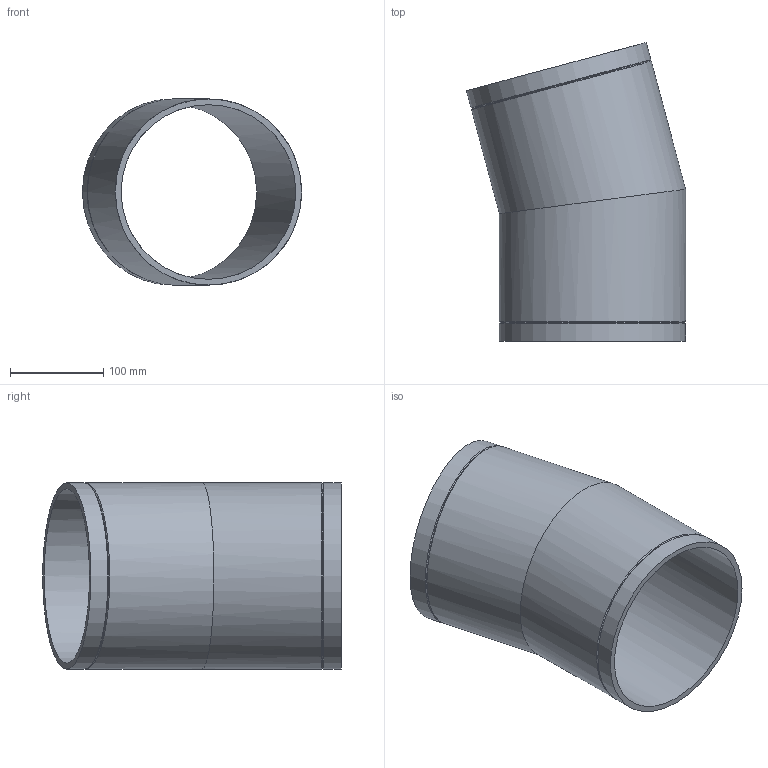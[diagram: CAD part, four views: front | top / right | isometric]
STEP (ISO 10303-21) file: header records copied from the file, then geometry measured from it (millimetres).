
FILE_DESCRIPTION(/* description */ (''),/* implementation_level */ '2;1');
FILE_NAME(/* name */ 'Z:\Geberit\Export\NewStep\370015.stp',/* time_stamp */ '2014-04-02T08:03:30+02:00',/* author */ ('nelson'),/* organization */ (''),/* preprocessor_version */ 'ST-DEVELOPER v15.2',/* originating_system */ 'Autodesk Inventor 2014',/* authorisation */ '');
FILE_SCHEMA (('AUTOMOTIVE_DESIGN { 1 0 10303 214 3 1 1 }'));
Length unit declared in the file: millimetre
Products named in the file (1): 370015
Bounding box: 235.42 x 320.77 x 200 mm (x, y, z)
Volume: 1131191.3 mm3; surface area: 373877.3 mm2
Topology: 1 solids, 1 shells, 12 faces, 29 edges, 19 vertices
Faces by surface type: cylinder 6, cone 4, plane 2
Full cylindrical faces by diameter (mm): 187.6 x2, 200 x4
Entity records: 289 total; most frequent: DIRECTION 54, CARTESIAN_POINT 41, ORIENTED_EDGE 28, AXIS2_PLACEMENT_3D 27, EDGE_LOOP 24, FACE_BOUND 14, VERTEX_POINT 14, EDGE_CURVE 14
